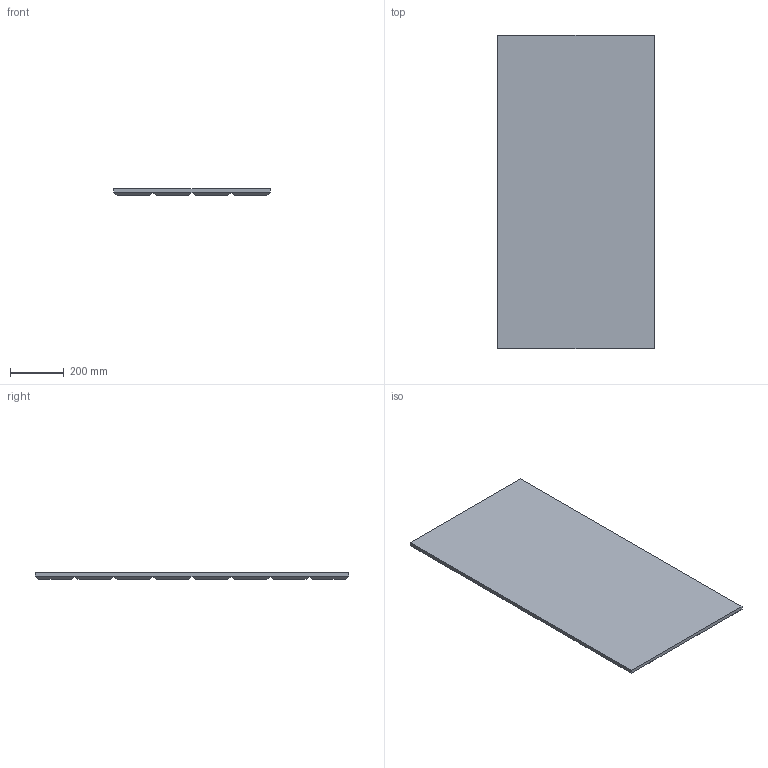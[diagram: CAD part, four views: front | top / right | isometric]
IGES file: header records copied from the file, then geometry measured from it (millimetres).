
Start section: SolidWorks IGES file using analytic representation for surfaces
Global section: file name: \\vmware-host\Shared Folders\Desktop\BAUX\check.IGS; native system: SolidWorks 2014; preprocessor: SolidWorks 2014; author: iMac 3; date: 150121.181703; units: millimetre
Bounding box: 580 x 1160 x 25 mm (x, y, z)
Surface area: 1476913.3 mm2 (no closed solid volume)
Topology: 0 solids, 0 shells, 165 faces, 680 edges, 680 vertices
Faces by surface type: bspline 165
